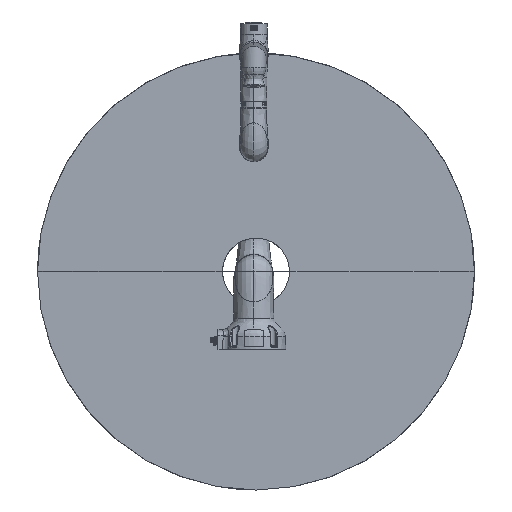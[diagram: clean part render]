
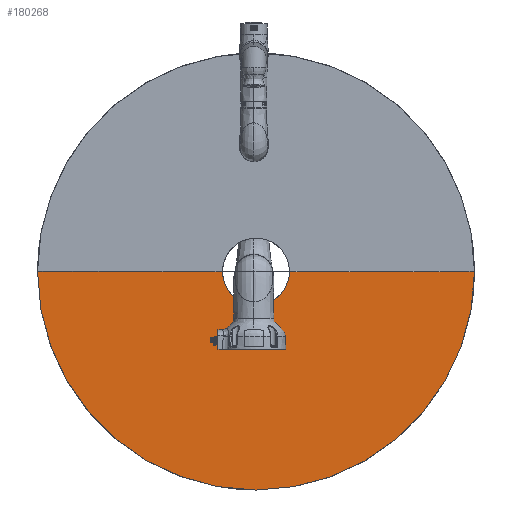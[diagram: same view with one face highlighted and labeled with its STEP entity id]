
A CAD part, front view. The second image highlights one B-rep face of the part: STEP entity #180268.
In plain terms, the highlighted planar face has unit normal (0, -1, 0).
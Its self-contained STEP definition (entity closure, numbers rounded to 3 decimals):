
#29769 = AXIS2_PLACEMENT_3D ( 'NONE', #69144, #69226, #69038 ) ;
#29911 = AXIS2_PLACEMENT_3D ( 'NONE', #79793, #79779, #79838 ) ;
#29954 = AXIS2_PLACEMENT_3D ( 'NONE', #79337, #79311, #79258 ) ;
#37063 = ORIENTED_EDGE ( 'NONE', *, *, #224588, .T. ) ;
#37073 = ORIENTED_EDGE ( 'NONE', *, *, #224830, .T. ) ;
#37107 = ORIENTED_EDGE ( 'NONE', *, *, #224846, .T. ) ;
#37167 = ORIENTED_EDGE ( 'NONE', *, *, #224821, .T. ) ;
#37279 = ORIENTED_EDGE ( 'NONE', *, *, #224722, .T. ) ;
#69038 = DIRECTION ( 'NONE',  ( 0., 0., 1. ) ) ;
#69144 = CARTESIAN_POINT ( 'NONE',  ( 0., -0.1, 296. ) ) ;
#69226 = DIRECTION ( 'NONE',  ( 0., -1., 0. ) ) ;
#70555 = EDGE_LOOP ( 'NONE', ( #37107, #37167, #37063, #37279, #37073 ) ) ;
#79258 = DIRECTION ( 'NONE',  ( 0., 0., 1. ) ) ;
#79311 = DIRECTION ( 'NONE',  ( 0., -1., 0. ) ) ;
#79337 = CARTESIAN_POINT ( 'NONE',  ( 0., -0.1, 296. ) ) ;
#79779 = DIRECTION ( 'NONE',  ( 0., 1., 0. ) ) ;
#79793 = CARTESIAN_POINT ( 'NONE',  ( 0., -0.1, 296. ) ) ;
#79837 = CARTESIAN_POINT ( 'NONE',  ( 0., -0.1, 296. ) ) ;
#79838 = DIRECTION ( 'NONE',  ( 0., 0., 1. ) ) ;
#79842 = DIRECTION ( 'NONE',  ( -1., 0., 0. ) ) ;
#79857 = CARTESIAN_POINT ( 'NONE',  ( 0., -0.1, 296. ) ) ;
#79858 = DIRECTION ( 'NONE',  ( -1., 0., 0. ) ) ;
#102512 = VERTEX_POINT ( 'NONE', #120346 ) ;
#102545 = VERTEX_POINT ( 'NONE', #120522 ) ;
#102686 = VERTEX_POINT ( 'NONE', #120495 ) ;
#102698 = VERTEX_POINT ( 'NONE', #120529 ) ;
#102715 = VERTEX_POINT ( 'NONE', #120490 ) ;
#103640 = CIRCLE ( 'NONE', #29769, 850. ) ;
#103702 = CIRCLE ( 'NONE', #29911, 130. ) ;
#103759 = LINE ( 'NONE', #79857, #103883 ) ;
#103763 = VECTOR ( 'NONE', #79858, 1000. ) ;
#103796 = LINE ( 'NONE', #79837, #103763 ) ;
#103810 = CIRCLE ( 'NONE', #29954, 850. ) ;
#103883 = VECTOR ( 'NONE', #79842, 1000. ) ;
#120346 = CARTESIAN_POINT ( 'NONE',  ( 850., -0.1, 296. ) ) ;
#120490 = CARTESIAN_POINT ( 'NONE',  ( 130., -0.1, 296. ) ) ;
#120495 = CARTESIAN_POINT ( 'NONE',  ( -850., -0.1, 296. ) ) ;
#120522 = CARTESIAN_POINT ( 'NONE',  ( 0., -0.1, -554. ) ) ;
#120529 = CARTESIAN_POINT ( 'NONE',  ( -130., -0.1, 296. ) ) ;
#145050 = AXIS2_PLACEMENT_3D ( 'NONE', #172260, #172296, #172280 ) ;
#172242 = PLANE ( 'NONE',  #145050 ) ;
#172260 = CARTESIAN_POINT ( 'NONE',  ( 0., -0.1, 296. ) ) ;
#172280 = DIRECTION ( 'NONE',  ( 0., 0., -1. ) ) ;
#172296 = DIRECTION ( 'NONE',  ( 0., -1., 0. ) ) ;
#180268 = ADVANCED_FACE ( 'NONE', ( #187294 ), #172242, .T. ) ;
#187294 = FACE_OUTER_BOUND ( 'NONE', #70555, .T. ) ;
#224588 = EDGE_CURVE ( 'NONE', #102686, #102545, #103640, .T. ) ;
#224722 = EDGE_CURVE ( 'NONE', #102545, #102512, #103810, .T. ) ;
#224821 = EDGE_CURVE ( 'NONE', #102698, #102686, #103759, .T. ) ;
#224830 = EDGE_CURVE ( 'NONE', #102512, #102715, #103796, .T. ) ;
#224846 = EDGE_CURVE ( 'NONE', #102715, #102698, #103702, .T. ) ;
